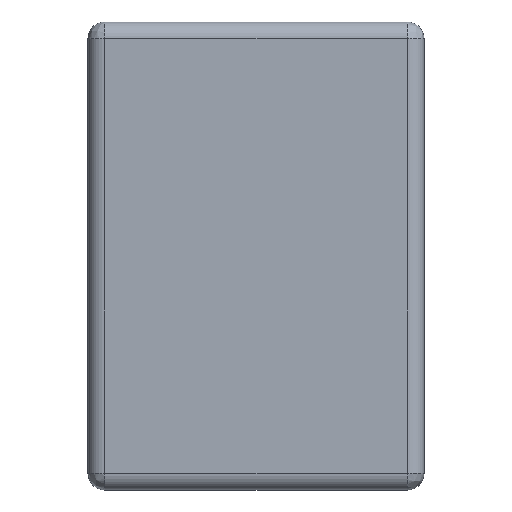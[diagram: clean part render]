
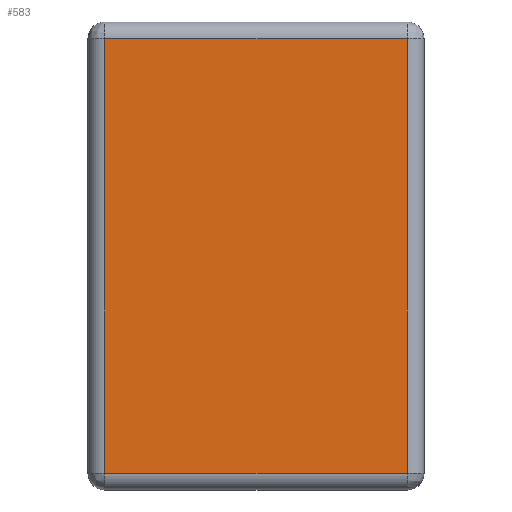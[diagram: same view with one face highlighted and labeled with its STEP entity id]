
A CAD part, top view. The second image highlights one B-rep face of the part: STEP entity #583.
In plain terms, the highlighted planar face has unit normal (0, 0, 1).
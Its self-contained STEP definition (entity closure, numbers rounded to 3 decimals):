
#14 = LINE ( 'NONE', #118, #284 ) ;
#19 = CARTESIAN_POINT ( 'NONE',  ( 18., -29.84, 4. ) ) ;
#31 = EDGE_CURVE ( 'NONE', #321, #195, #14, .T. ) ;
#89 = VERTEX_POINT ( 'NONE', #290 ) ;
#102 = CARTESIAN_POINT ( 'NONE',  ( -18., 29.84, 4. ) ) ;
#118 = CARTESIAN_POINT ( 'NONE',  ( -22., 25.84, 4. ) ) ;
#153 = DIRECTION ( 'NONE',  ( -1., 0., 0. ) ) ;
#195 = VERTEX_POINT ( 'NONE', #240 ) ;
#240 = CARTESIAN_POINT ( 'NONE',  ( 18., 25.84, 4. ) ) ;
#262 = ORIENTED_EDGE ( 'NONE', *, *, #31, .F. ) ;
#275 = VERTEX_POINT ( 'NONE', #417 ) ;
#281 = FACE_OUTER_BOUND ( 'NONE', #666, .T. ) ;
#284 = VECTOR ( 'NONE', #466, 1000. ) ;
#285 = PLANE ( 'NONE',  #374 ) ;
#288 = VECTOR ( 'NONE', #717, 1000. ) ;
#290 = CARTESIAN_POINT ( 'NONE',  ( -18., -25.84, 4. ) ) ;
#321 = VERTEX_POINT ( 'NONE', #729 ) ;
#325 = DIRECTION ( 'NONE',  ( 0., 1., 0. ) ) ;
#354 = EDGE_CURVE ( 'NONE', #89, #321, #487, .T. ) ;
#359 = DIRECTION ( 'NONE',  ( 1., 0., 0. ) ) ;
#368 = LINE ( 'NONE', #386, #700 ) ;
#374 = AXIS2_PLACEMENT_3D ( 'NONE', #509, #455, #359 ) ;
#386 = CARTESIAN_POINT ( 'NONE',  ( 22., -25.84, 4. ) ) ;
#417 = CARTESIAN_POINT ( 'NONE',  ( 18., -25.84, 4. ) ) ;
#419 = EDGE_CURVE ( 'NONE', #275, #89, #368, .T. ) ;
#431 = ORIENTED_EDGE ( 'NONE', *, *, #419, .F. ) ;
#446 = ORIENTED_EDGE ( 'NONE', *, *, #705, .F. ) ;
#455 = DIRECTION ( 'NONE',  ( 0., 0., 1. ) ) ;
#466 = DIRECTION ( 'NONE',  ( 1., 0., 0. ) ) ;
#487 = LINE ( 'NONE', #102, #611 ) ;
#501 = ORIENTED_EDGE ( 'NONE', *, *, #354, .F. ) ;
#509 = CARTESIAN_POINT ( 'NONE',  ( 0., 0., 4. ) ) ;
#583 = ADVANCED_FACE ( 'NONE', ( #281 ), #285, .T. ) ;
#601 = LINE ( 'NONE', #19, #288 ) ;
#611 = VECTOR ( 'NONE', #325, 1000. ) ;
#666 = EDGE_LOOP ( 'NONE', ( #262, #501, #431, #446 ) ) ;
#700 = VECTOR ( 'NONE', #153, 1000. ) ;
#705 = EDGE_CURVE ( 'NONE', #195, #275, #601, .T. ) ;
#717 = DIRECTION ( 'NONE',  ( 0., -1., 0. ) ) ;
#729 = CARTESIAN_POINT ( 'NONE',  ( -18., 25.84, 4. ) ) ;
